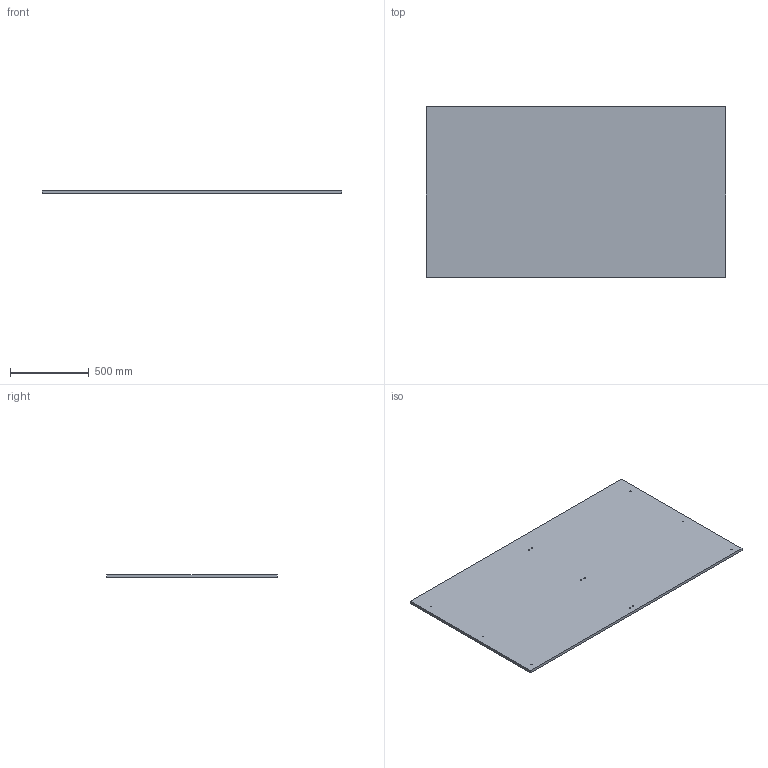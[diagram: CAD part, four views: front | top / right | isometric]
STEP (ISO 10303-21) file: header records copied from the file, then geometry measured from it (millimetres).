
FILE_DESCRIPTION (( 'STEP AP214' ), '1' );
FILE_NAME ('PANTS0047.STEP', '2025-05-15T13:24:51', ( '' ), ( '' ), 'SwSTEP 2.0', 'SolidWorks 2022', '' );
FILE_SCHEMA (( 'AUTOMOTIVE_DESIGN' ));
Length unit declared in the file: millimetre
Products named in the file (1): PANTS0047
Bounding box: 1896 x 1078 x 18 mm (x, y, z)
Volume: 36779721.6 mm3; surface area: 4199225.9 mm2
Topology: 1 solids, 1 shells, 94 faces, 220 edges, 112 vertices
Faces by surface type: cone 56, cylinder 32, plane 6
Entity records: 2454 total; most frequent: DIRECTION 466, CARTESIAN_POINT 395, ORIENTED_EDGE 376, EDGE_CURVE 188, AXIS2_PLACEMENT_3D 183, VERTEX_POINT 112, EDGE_LOOP 110, LINE 100
